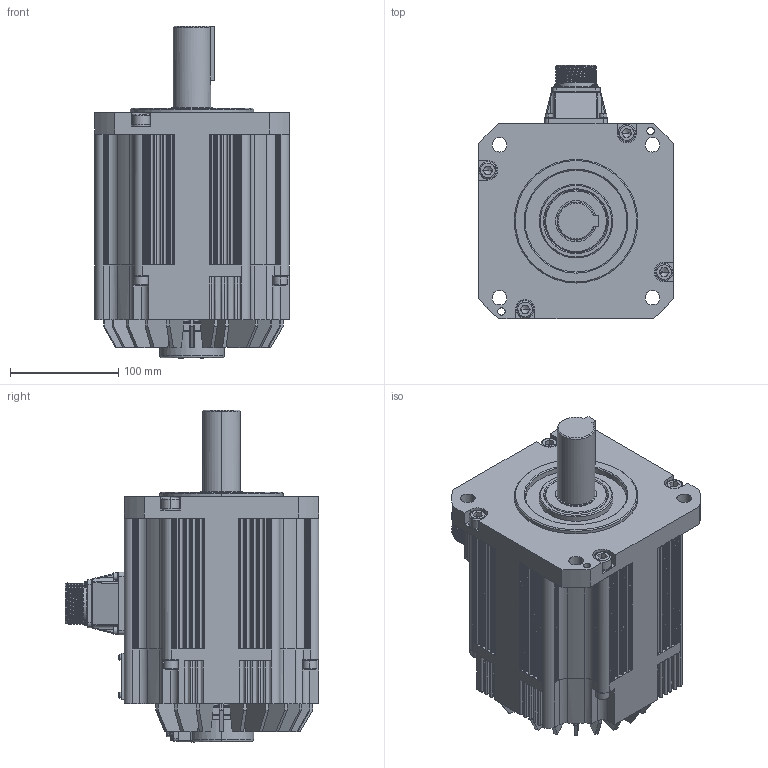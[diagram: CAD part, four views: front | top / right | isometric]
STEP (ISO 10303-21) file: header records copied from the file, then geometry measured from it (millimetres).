
FILE_DESCRIPTION (( 'STEP AP203' ), '1' );
FILE_NAME ('TSM3610N2376E710.STEP', '2018-07-04T09:11:27', ( '' ), ( '' ), 'SwSTEP 2.0', 'SolidWorks 2017', '' );
FILE_SCHEMA (( 'CONFIG_CONTROL_DESIGN' ));
Products named in the file (1): TSM3610N2376E710
Bounding box: 180 x 234.5 x 307 mm (x, y, z)
Volume: 5564086.5 mm3; surface area: 341582.5 mm2
Topology: 1 solids, 24 shells, 2702 faces, 7151 edges, 4584 vertices
Faces by surface type: plane 1451, cylinder 712, bspline 388, cone 137, torus 14
Entity records: 104673 total; most frequent: CARTESIAN_POINT 41160, ORIENTED_EDGE 14186, DIRECTION 11633, EDGE_CURVE 7093, VERTEX_POINT 4584, LINE 4339, VECTOR 4339, AXIS2_PLACEMENT_3D 3647
